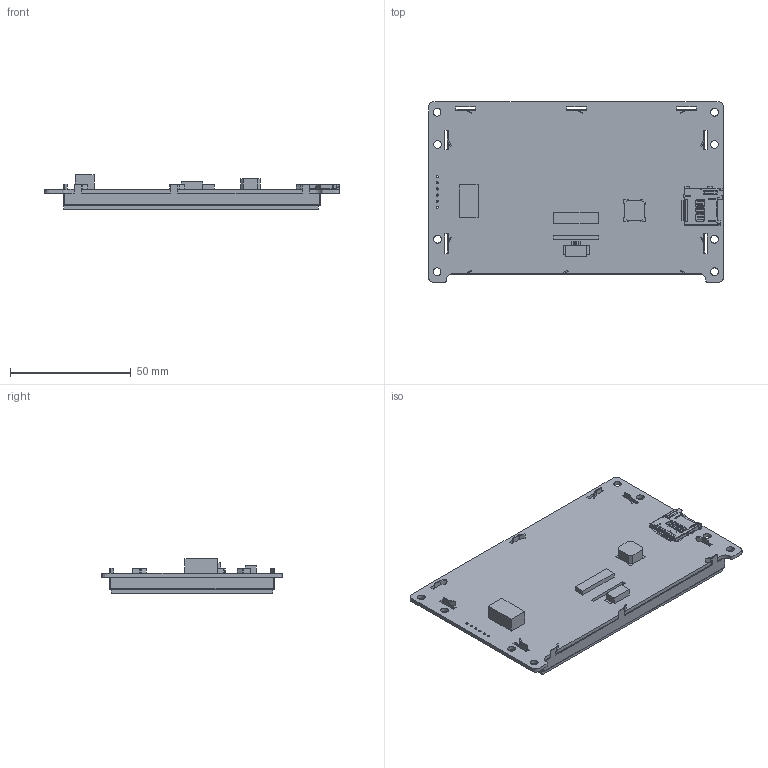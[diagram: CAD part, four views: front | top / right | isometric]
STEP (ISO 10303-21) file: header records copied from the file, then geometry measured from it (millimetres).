
FILE_DESCRIPTION(/* description */ (''),/* implementation_level */ '2;1');
FILE_NAME(/* name */ '3D-VTc043C33T_stp.stp',/* time_stamp */ '2025-02-14T19:13:53+08:00',/* author */ (''),/* organization */ (''),/* preprocessor_version */ 'ST-DEVELOPER v16',/* originating_system */ 'SIEMENS PLM Software NX 10.0',/* authorisation */ '');
FILE_SCHEMA (('AP203_CONFIGURATION_CONTROLLED_3D_DESIGN_OF_MECHANICAL_PARTS_AND_ASSEMBLIES_MIM_LF { 1 0 10303 403 2 1 2}'));
Length unit declared in the file: millimetre
Products named in the file (1): 3D-VTc043C33T_stp
Bounding box: 121.9 x 74.7 x 14.3 mm (x, y, z)
Volume: 26833.4 mm3; surface area: 42866.9 mm2
Topology: 13 solids, 13 shells, 1198 faces, 3407 edges, 2211 vertices
Faces by surface type: plane 916, cylinder 280, cone 1, extrusion 1
Full cylindrical faces by diameter (mm): 0.889 x6, 3.2 x8
Entity records: 39231 total; most frequent: CARTESIAN_POINT 6964, ORIENTED_EDGE 6784, DIRECTION 6345, EDGE_CURVE 3392, VECTOR 2817, LINE 2816, VERTEX_POINT 2211, AXIS2_PLACEMENT_3D 1764
